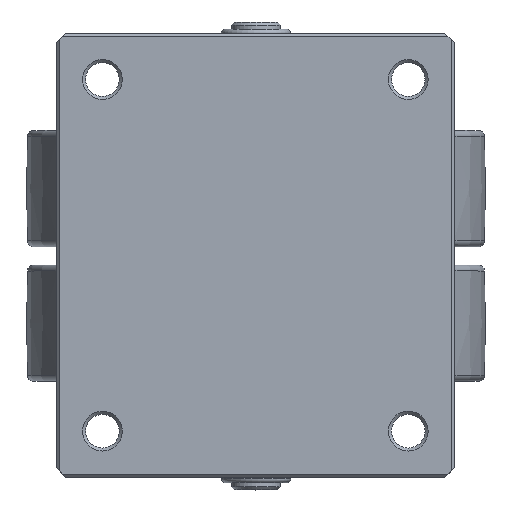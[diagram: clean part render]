
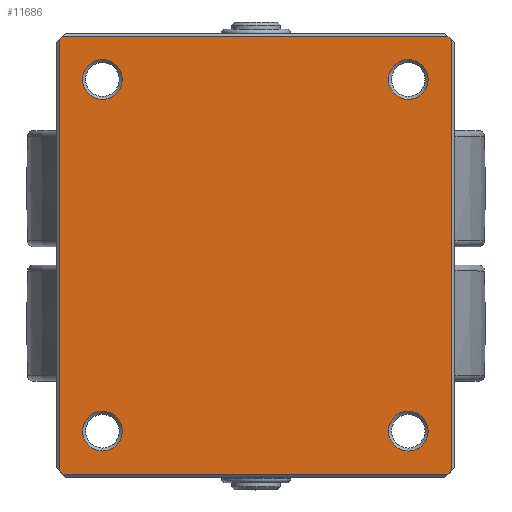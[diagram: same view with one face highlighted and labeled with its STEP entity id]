
A CAD part, top view. The second image highlights one B-rep face of the part: STEP entity #11686.
In plain terms, the highlighted planar face has unit normal (0, 0, 1).
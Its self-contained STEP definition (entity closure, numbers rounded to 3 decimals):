
#11014=CARTESIAN_POINT('',(-465.34,300.916,-363.192));
#11015=VERTEX_POINT('',#11014);
#11016=CARTESIAN_POINT('',(-458.84,300.916,-363.192));
#11017=DIRECTION('',(0.0,0.0,1.0));
#11018=DIRECTION('',(1.0,0.0,0.0));
#11019=AXIS2_PLACEMENT_3D('',#11016,#11017,#11018);
#11020=CIRCLE('',#11019,6.5);
#11021=EDGE_CURVE('',#11015,#11015,#11020,.T.);
#11042=CARTESIAN_POINT('',(-365.34,415.916,-363.192));
#11043=VERTEX_POINT('',#11042);
#11044=CARTESIAN_POINT('',(-358.84,415.916,-363.192));
#11045=DIRECTION('',(0.0,0.0,1.0));
#11046=DIRECTION('',(1.0,0.0,0.0));
#11047=AXIS2_PLACEMENT_3D('',#11044,#11045,#11046);
#11048=CIRCLE('',#11047,6.5);
#11049=EDGE_CURVE('',#11043,#11043,#11048,.T.);
#11070=CARTESIAN_POINT('',(-365.34,300.916,-363.192));
#11071=VERTEX_POINT('',#11070);
#11072=CARTESIAN_POINT('',(-358.84,300.916,-363.192));
#11073=DIRECTION('',(0.0,0.0,1.0));
#11074=DIRECTION('',(1.0,0.0,0.0));
#11075=AXIS2_PLACEMENT_3D('',#11072,#11073,#11074);
#11076=CIRCLE('',#11075,6.5);
#11077=EDGE_CURVE('',#11071,#11071,#11076,.T.);
#11098=CARTESIAN_POINT('',(-465.34,415.916,-363.192));
#11099=VERTEX_POINT('',#11098);
#11100=CARTESIAN_POINT('',(-458.84,415.916,-363.192));
#11101=DIRECTION('',(0.0,0.0,1.0));
#11102=DIRECTION('',(1.0,0.0,0.0));
#11103=AXIS2_PLACEMENT_3D('',#11100,#11101,#11102);
#11104=CIRCLE('',#11103,6.5);
#11105=EDGE_CURVE('',#11099,#11099,#11104,.T.);
#11539=CARTESIAN_POINT('',(-344.84,287.916,-363.192));
#11540=VERTEX_POINT('',#11539);
#11547=CARTESIAN_POINT('',(-345.84,286.916,-363.192));
#11548=VERTEX_POINT('',#11547);
#11549=CARTESIAN_POINT('',(-344.84,287.916,-363.192));
#11550=DIRECTION('',(-0.707,-0.707,0.0));
#11551=VECTOR('',#11550,1.414);
#11552=LINE('',#11549,#11551);
#11553=EDGE_CURVE('',#11540,#11548,#11552,.T.);
#11594=CARTESIAN_POINT('',(-471.84,286.916,-363.192));
#11595=VERTEX_POINT('',#11594);
#11596=CARTESIAN_POINT('',(-345.84,286.916,-363.192));
#11597=DIRECTION('',(-1.0,0.0,0.0));
#11598=VECTOR('',#11597,126.);
#11599=LINE('',#11596,#11598);
#11600=EDGE_CURVE('',#11548,#11595,#11599,.T.);
#11619=CARTESIAN_POINT('',(-408.84,358.416,-363.192));
#11620=DIRECTION('',(0.0,0.0,1.0));
#11621=DIRECTION('',(-1.0,0.0,0.0));
#11622=AXIS2_PLACEMENT_3D('',#11619,#11620,#11621);
#11623=PLANE('',#11622);
#11624=ORIENTED_EDGE('',*,*,#11553,.F.);
#11625=CARTESIAN_POINT('',(-344.84,428.916,-363.192));
#11626=VERTEX_POINT('',#11625);
#11627=CARTESIAN_POINT('',(-344.84,428.916,-363.192));
#11628=DIRECTION('',(0.0,-1.0,0.0));
#11629=VECTOR('',#11628,141.);
#11630=LINE('',#11627,#11629);
#11631=EDGE_CURVE('',#11626,#11540,#11630,.T.);
#11632=ORIENTED_EDGE('',*,*,#11631,.F.);
#11633=CARTESIAN_POINT('',(-345.84,429.916,-363.192));
#11634=VERTEX_POINT('',#11633);
#11635=CARTESIAN_POINT('',(-345.84,429.916,-363.192));
#11636=DIRECTION('',(0.707,-0.707,0.0));
#11637=VECTOR('',#11636,1.414);
#11638=LINE('',#11635,#11637);
#11639=EDGE_CURVE('',#11634,#11626,#11638,.T.);
#11640=ORIENTED_EDGE('',*,*,#11639,.F.);
#11641=CARTESIAN_POINT('',(-471.84,429.916,-363.192));
#11642=VERTEX_POINT('',#11641);
#11643=CARTESIAN_POINT('',(-471.84,429.916,-363.192));
#11644=DIRECTION('',(1.0,0.0,0.0));
#11645=VECTOR('',#11644,126.);
#11646=LINE('',#11643,#11645);
#11647=EDGE_CURVE('',#11642,#11634,#11646,.T.);
#11648=ORIENTED_EDGE('',*,*,#11647,.F.);
#11649=CARTESIAN_POINT('',(-472.84,428.916,-363.192));
#11650=VERTEX_POINT('',#11649);
#11651=CARTESIAN_POINT('',(-472.84,428.916,-363.192));
#11652=DIRECTION('',(0.707,0.707,0.0));
#11653=VECTOR('',#11652,1.414);
#11654=LINE('',#11651,#11653);
#11655=EDGE_CURVE('',#11650,#11642,#11654,.T.);
#11656=ORIENTED_EDGE('',*,*,#11655,.F.);
#11657=CARTESIAN_POINT('',(-472.84,287.916,-363.192));
#11658=VERTEX_POINT('',#11657);
#11659=CARTESIAN_POINT('',(-472.84,287.916,-363.192));
#11660=DIRECTION('',(0.0,1.0,0.0));
#11661=VECTOR('',#11660,141.);
#11662=LINE('',#11659,#11661);
#11663=EDGE_CURVE('',#11658,#11650,#11662,.T.);
#11664=ORIENTED_EDGE('',*,*,#11663,.F.);
#11665=CARTESIAN_POINT('',(-471.84,286.916,-363.192));
#11666=DIRECTION('',(-0.707,0.707,0.0));
#11667=VECTOR('',#11666,1.414);
#11668=LINE('',#11665,#11667);
#11669=EDGE_CURVE('',#11595,#11658,#11668,.T.);
#11670=ORIENTED_EDGE('',*,*,#11669,.F.);
#11671=ORIENTED_EDGE('',*,*,#11600,.F.);
#11672=EDGE_LOOP('',(#11624,#11632,#11640,#11648,#11656,#11664,#11670,#11671));
#11673=FACE_OUTER_BOUND('',#11672,.T.);
#11674=ORIENTED_EDGE('',*,*,#11105,.F.);
#11675=EDGE_LOOP('',(#11674));
#11676=FACE_BOUND('',#11675,.T.);
#11677=ORIENTED_EDGE('',*,*,#11049,.F.);
#11678=EDGE_LOOP('',(#11677));
#11679=FACE_BOUND('',#11678,.T.);
#11680=ORIENTED_EDGE('',*,*,#11021,.F.);
#11681=EDGE_LOOP('',(#11680));
#11682=FACE_BOUND('',#11681,.T.);
#11683=ORIENTED_EDGE('',*,*,#11077,.F.);
#11684=EDGE_LOOP('',(#11683));
#11685=FACE_BOUND('',#11684,.T.);
#11686=ADVANCED_FACE('',(#11673,#11676,#11679,#11682,#11685),#11623,.T.);
